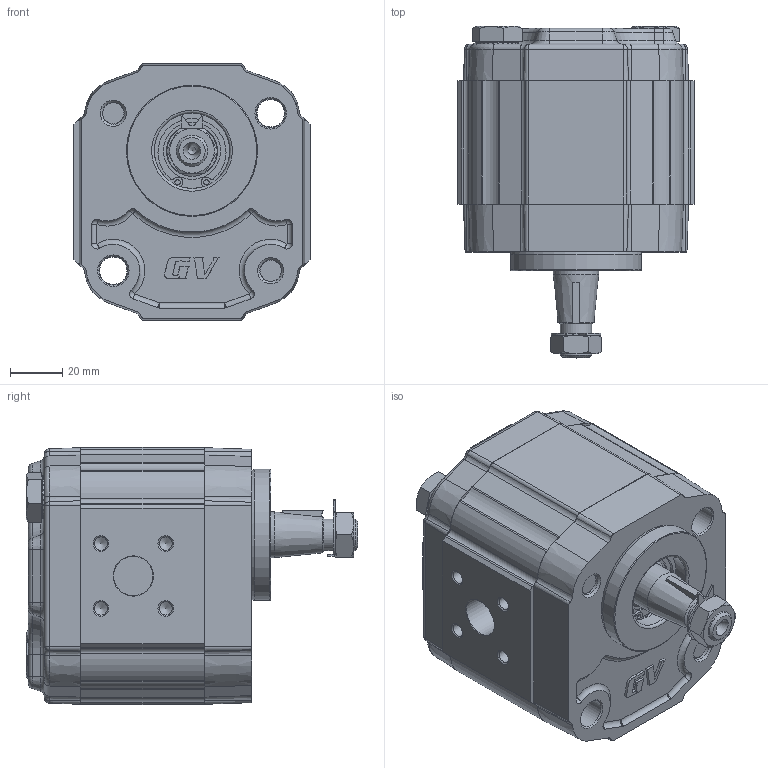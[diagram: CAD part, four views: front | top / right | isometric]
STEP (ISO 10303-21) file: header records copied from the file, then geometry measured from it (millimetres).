
FILE_DESCRIPTION(/* description */ ('Unknown'),/* implementation_level */ '2;1');
FILE_NAME(/* name */ 'G2P4111FSRA',/* time_stamp */ '2018-06-04T12:13:20+02:00',/* author */ ('Unknown'),/* organization */ ('Unknown'),/* preprocessor_version */ 'ST-DEVELOPER v16.7',/* originating_system */ 'DEX',/* authorisation */ $);
FILE_SCHEMA (('AUTOMOTIVE_DESIGN {1 0 10303 214 3 1 1}'));
Products named in the file (5): Asm98; G2P11; 2F; G2SRH47; GP210-A
Assembly tree (4 placements, depth 2):
  Asm98
    G2P11
    2F
    G2SRH47
    GP210-A
Bounding box: 90 x 126.55 x 98 mm (x, y, z)
Volume: 620303.8 mm3; surface area: 96394.2 mm2
Topology: 4 solids, 5 shells, 735 faces, 2296 edges, 1444 vertices
Faces by surface type: cylinder 264, plane 251, cone 108, bspline 56, torus 46, sphere 10
Full cylindrical faces by diameter (mm): 2 x2, 5 x8, 8.376 x2, 9.9 x2, 10 x2, 10.5 x8, 11 x2, 12 x2, 12.5 x1, 15 x1, 15.8 x2, 16 x2, 17.42 x1, 17.48 x2, 18 x4, 18.724 x1, 20 x1, 20.595 x1, 21.741 x1, 25.834 x1, 28.56 x1, 28.57 x1, 28.8 x1, 30.5 x1, 50 x1
Entity records: 48080 total; most frequent: CARTESIAN_POINT 23088, ORIENTED_EDGE 4276, DIRECTION 3969, EDGE_CURVE 2138, AXIS2_PLACEMENT_3D 1521, VERTEX_POINT 1403, FACE_BOUND 947, EDGE_LOOP 937
